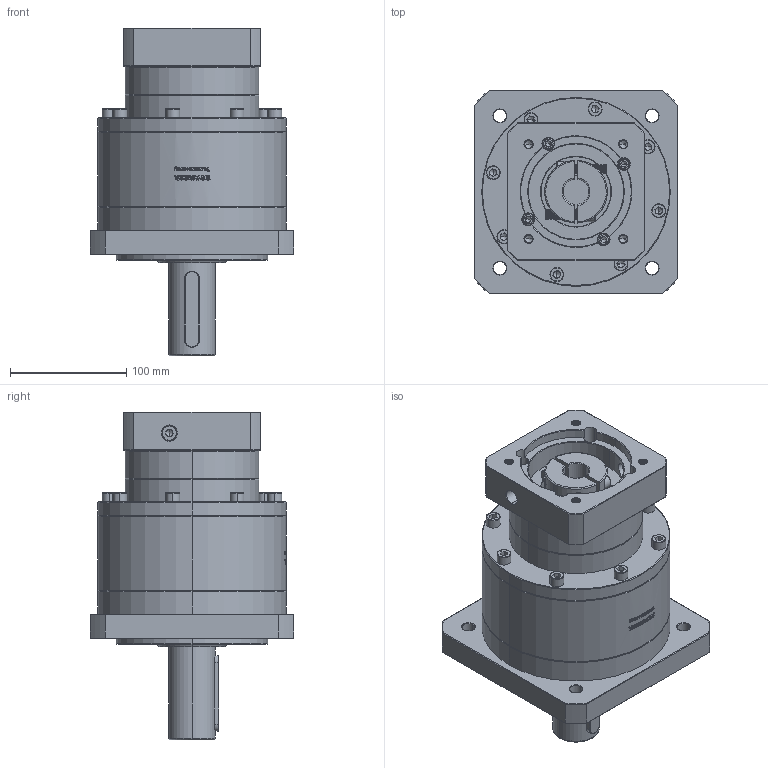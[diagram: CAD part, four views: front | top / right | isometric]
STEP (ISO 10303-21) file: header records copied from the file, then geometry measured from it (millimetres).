
FILE_DESCRIPTION (( 'STEP AP214' ), '1' );
FILE_NAME ('ZF160-D40-L2-22-95-115-M8.step', '2023-03-22T03:56:25', ( '' ), ( '' ), 'SwSTEP 2.0', 'SolidWorks 2016', '' );
FILE_SCHEMA (( 'AUTOMOTIVE_DESIGN' ));
Length unit declared in the file: millimetre
Products named in the file (1): ZF160-D40-L2-22-95-115-M8
Bounding box: 175 x 175 x 281.7 mm (x, y, z)
Volume: 3491148.6 mm3; surface area: 259117.8 mm2
Topology: 6 solids, 6 shells, 1872 faces, 4743 edges, 2993 vertices
Faces by surface type: plane 746, cylinder 491, cone 365, bspline 232, torus 38
Entity records: 99765 total; most frequent: CARTESIAN_POINT 36500, ORIENTED_EDGE 9378, DIRECTION 8193, EDGE_CURVE 4689, VERTEX_POINT 2993, AXIS2_PLACEMENT_3D 2845, VECTOR 2503, LINE 2503
